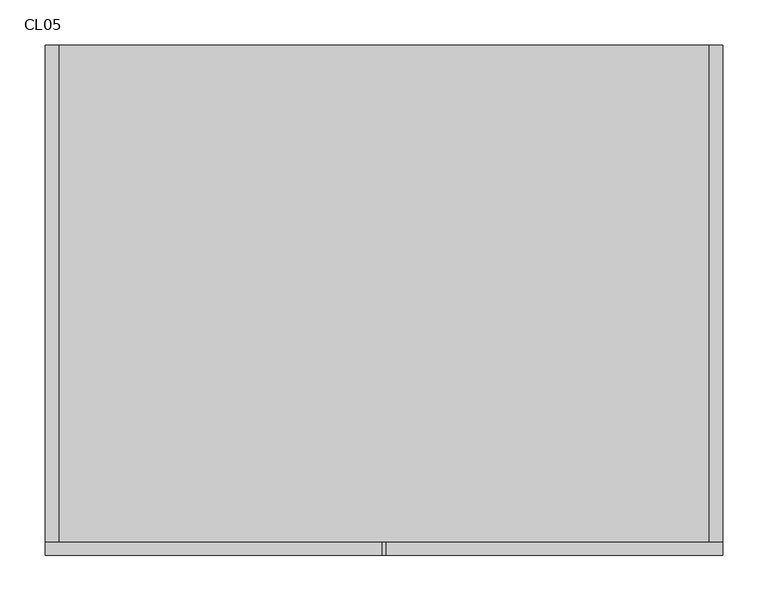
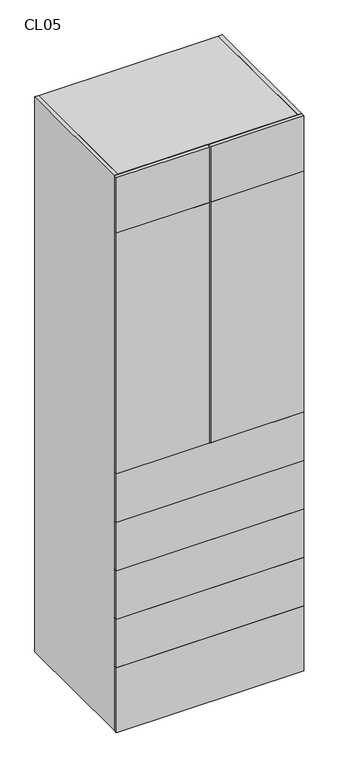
"""IFC4 building model written with IfcOpenShell, lengths in millimetres: furniture geometry, Closet 5cajones-inf_2puertas-sup : CL05."""

from ifc_helpers import new_model, si_unit, frame, origin, origin_with_axes, place, context, project, spatial, polyline, outline, extrude, source, transform, mapped, element, save


def cl05_4e4fac43(model_context):
    return source(origin(), model_context, "Body", "SweptSolid", [
        extrude(outline(polyline([(375.0, 50.0), (360.0, 50.0), (360.0, 600.0), (375.0, 600.0), (375.0, 50.0)])), origin_with_axes(), (0.0, 0.0, 1.0), 2350.0),
        extrude(outline(polyline([(-360.0, 50.0), (-375.0, 50.0), (-375.0, 600.0), (-360.0, 600.0), (-360.0, 50.0)])), origin_with_axes(), (0.0, 0.0, 1.0), 2350.0),
        extrude(outline(polyline([(360.0, 50.0), (-360.0, 50.0), (-360.0, 550.0), (360.0, 550.0), (360.0, 50.0)])), frame((0.0, 0.0, 2100.0), z_axis=(0.0, 0.0, 1.0), x_axis=(1.0, 0.0, 0.0)), (0.0, 0.0, 1.0), 15.0),
        extrude(outline(polyline([(375.0, 50.0), (375.0, 35.0), (-375.0, 35.0), (-375.0, 50.0), (375.0, 50.0)])), frame((0.0, 0.0, 890.0), z_axis=(0.0, 0.0, 1.0), x_axis=(1.0, 0.0, 0.0)), (0.0, 0.0, 1.0), 205.0),
        extrude(outline(polyline([(375.0, 50.0), (375.0, 35.0), (-375.0, 35.0), (-375.0, 50.0), (375.0, 50.0)])), frame((0.0, 0.0, 685.0), z_axis=(0.0, 0.0, 1.0), x_axis=(1.0, 0.0, 0.0)), (0.0, 0.0, 1.0), 205.0),
        extrude(outline(polyline([(375.0, 50.0), (375.0, 35.0), (-375.0, 35.0), (-375.0, 50.0), (375.0, 50.0)])), frame((0.0, 0.0, 480.0), z_axis=(0.0, 0.0, 1.0), x_axis=(1.0, 0.0, 0.0)), (0.0, 0.0, 1.0), 205.0),
        extrude(outline(polyline([(375.0, 50.0), (375.0, 35.0), (-375.0, 35.0), (-375.0, 50.0), (375.0, 50.0)])), frame((0.0, 0.0, 275.0), z_axis=(0.0, 0.0, 1.0), x_axis=(1.0, 0.0, 0.0)), (0.0, 0.0, 1.0), 205.0),
        extrude(outline(polyline([(375.0, 50.0), (375.0, 35.0), (-375.0, 35.0), (-375.0, 50.0), (375.0, 50.0)])), origin_with_axes(), (0.0, 0.0, 1.0), 275.0),
        extrude(outline(polyline([(360.0, 50.0), (-360.0, 50.0), (-360.0, 600.0), (360.0, 600.0), (360.0, 50.0)])), frame((0.0, 0.0, 670.0), z_axis=(0.0, 0.0, 1.0), x_axis=(1.0, 0.0, 0.0)), (0.0, 0.0, 1.0), 15.0),
        extrude(outline(polyline([(360.0, 50.0), (-360.0, 50.0), (-360.0, 600.0), (360.0, 600.0), (360.0, 50.0)])), frame((0.0, 0.0, 260.0), z_axis=(0.0, 0.0, 1.0), x_axis=(1.0, 0.0, 0.0)), (0.0, 0.0, 1.0), 15.0),
        extrude(outline(polyline([(360.0, 50.0), (-360.0, 50.0), (-360.0, 600.0), (360.0, 600.0), (360.0, 50.0)])), frame((0.0, 0.0, 465.0), z_axis=(0.0, 0.0, 1.0), x_axis=(1.0, 0.0, 0.0)), (0.0, 0.0, 1.0), 15.0),
        extrude(outline(polyline([(360.0, 50.0), (-360.0, 50.0), (-360.0, 600.0), (360.0, 600.0), (360.0, 50.0)])), frame((0.0, 0.0, 875.0), z_axis=(0.0, 0.0, 1.0), x_axis=(1.0, 0.0, 0.0)), (0.0, 0.0, 1.0), 15.0),
        extrude(outline(polyline([(360.0, 50.0), (-360.0, 50.0), (-360.0, 600.0), (360.0, 600.0), (360.0, 50.0)])), frame((0.0, 0.0, 1080.0), z_axis=(0.0, 0.0, 1.0), x_axis=(1.0, 0.0, 0.0)), (0.0, 0.0, 1.0), 15.0),
        extrude(outline(polyline([(360.0, 50.0), (-360.0, 50.0), (-360.0, 600.0), (360.0, 600.0), (360.0, 50.0)])), frame((0.0, 0.0, 2335.0), z_axis=(0.0, 0.0, 1.0), x_axis=(1.0, 0.0, 0.0)), (0.0, 0.0, 1.0), 15.0),
        extrude(outline(polyline([(2.5, 35.0), (2.5, 50.0), (375.0, 50.0), (375.0, 35.0), (2.5, 35.0)])), frame((0.0, 0.0, 1095.0), z_axis=(0.0, 0.0, 1.0), x_axis=(1.0, 0.0, 0.0)), (0.0, 0.0, 1.0), 1020.0),
        extrude(outline(polyline([(-2.5, 50.0), (-2.5, 35.0), (-375.0, 35.0), (-375.0, 50.0), (-2.5, 50.0)])), frame((0.0, 0.0, 1095.0), z_axis=(0.0, 0.0, 1.0), x_axis=(1.0, 0.0, 0.0)), (0.0, 0.0, 1.0), 1020.0),
        extrude(outline(polyline([(2.5, 35.0), (2.5, 50.0), (375.0, 50.0), (375.0, 35.0), (2.5, 35.0)])), frame((0.0, 0.0, 2115.0), z_axis=(0.0, 0.0, 1.0), x_axis=(1.0, 0.0, 0.0)), (0.0, 0.0, 1.0), 235.0),
        extrude(outline(polyline([(-2.5, 50.0), (-2.5, 35.0), (-375.0, 35.0), (-375.0, 50.0), (-2.5, 50.0)])), frame((0.0, 0.0, 2115.0), z_axis=(0.0, 0.0, 1.0), x_axis=(1.0, 0.0, 0.0)), (0.0, 0.0, 1.0), 235.0),
    ])


if __name__ == "__main__":
    model = new_model("IFC4")
    model_context = context("Model", 3, world=origin())
    ifc_project = project(units=[si_unit("LENGTHUNIT", "METRE", prefix="MILLI")], contexts=[model_context])
    site = spatial("IfcSite", under=ifc_project)
    building = spatial("IfcBuilding", under=site)
    placement = place(None, origin())
    cl05_shape = cl05_4e4fac43(model_context)
    element("IfcFurniture", 1, ObjectType="Closet 5cajones-inf_2puertas-sup : CL05", at=placement, inside=building, context=model_context, shape_type="MappedRepresentation", body=[
        mapped(cl05_shape, transform((0.0, 0.0, 0.0), x_axis=(1.0, 0.0, 0.0), y_axis=(0.0, 1.0, 0.0), z_axis=(0.0, 0.0, 1.0))),
    ])
    save(model, "model.ifc")
